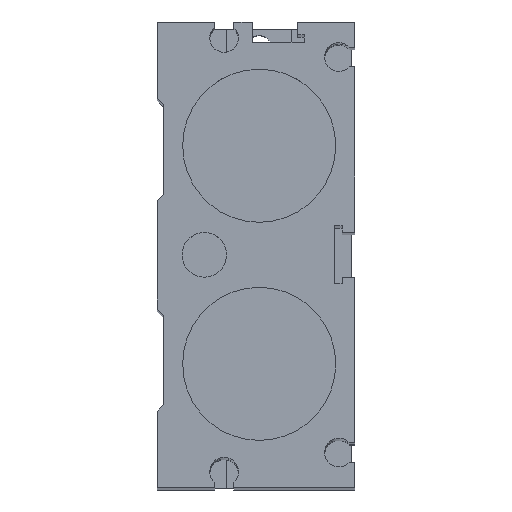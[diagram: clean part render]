
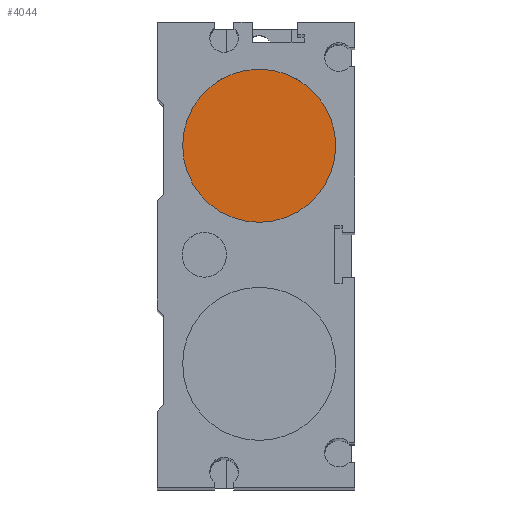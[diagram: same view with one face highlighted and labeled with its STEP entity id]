
A CAD part, top view. The second image highlights one B-rep face of the part: STEP entity #4044.
In plain terms, the highlighted planar face has unit normal (0, 0, 1).
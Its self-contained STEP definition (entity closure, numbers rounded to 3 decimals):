
#4021=CARTESIAN_POINT('',(12.,17.1,381.));
#4022=VERTEX_POINT('',#4021);
#4023=CARTESIAN_POINT('',(0.,17.1,381.));
#4024=DIRECTION('',(0.0,0.0,1.0));
#4025=DIRECTION('',(-1.0,0.0,0.0));
#4026=AXIS2_PLACEMENT_3D('',#4023,#4024,#4025);
#4027=CIRCLE('',#4026,12.);
#4028=EDGE_CURVE('',#4022,#4022,#4027,.T.);
#4036=CARTESIAN_POINT('',(0.,17.1,381.));
#4037=DIRECTION('',(0.0,0.0,-1.0));
#4038=DIRECTION('',(-1.0,0.0,0.0));
#4039=AXIS2_PLACEMENT_3D('',#4036,#4037,#4038);
#4040=PLANE('',#4039);
#4041=ORIENTED_EDGE('',*,*,#4028,.T.);
#4042=EDGE_LOOP('',(#4041));
#4043=FACE_OUTER_BOUND('',#4042,.T.);
#4044=ADVANCED_FACE('',(#4043),#4040,.F.);
